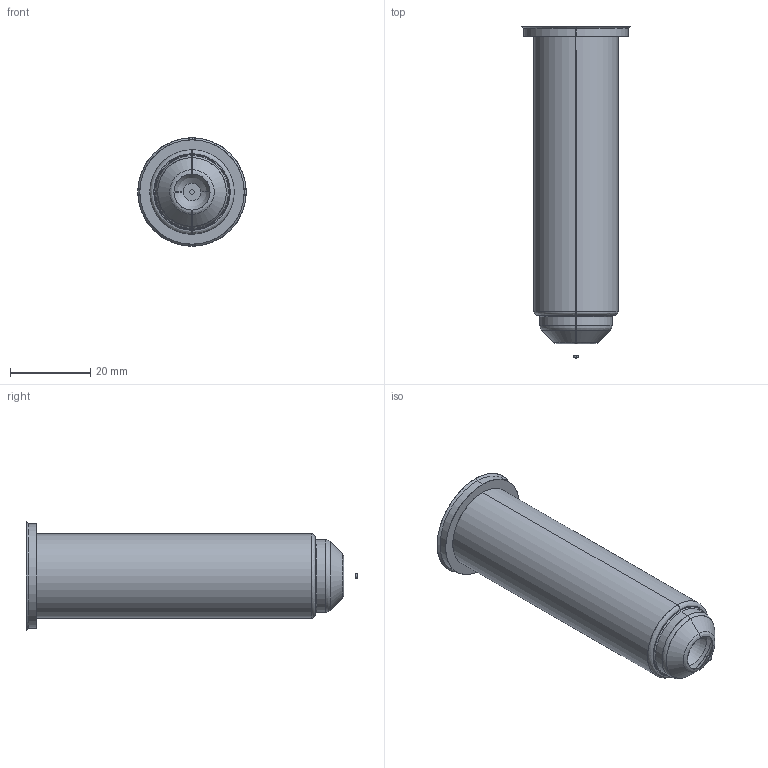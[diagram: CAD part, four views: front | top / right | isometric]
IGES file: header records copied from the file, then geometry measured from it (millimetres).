
Start section: SolidWorks IGES file using analytic representation for surfaces
Global section: file name: C:\Documents and Settings\ws-20\Desktop\TEM\Sede UGER2503-M-A C-80 L-110 Ød-1.0.IGS; native system: SolidWorks 2012; preprocessor: SolidWorks 2012; author: ws-20; date: 120405.111800; units: millimetre
Bounding box: 27 x 82.7 x 27 mm (x, y, z)
Surface area: 6191.7 mm2 (no closed solid volume)
Topology: 0 solids, 0 shells, 27 faces, 332 edges, 332 vertices
Faces by surface type: revolution 16, bspline 11
